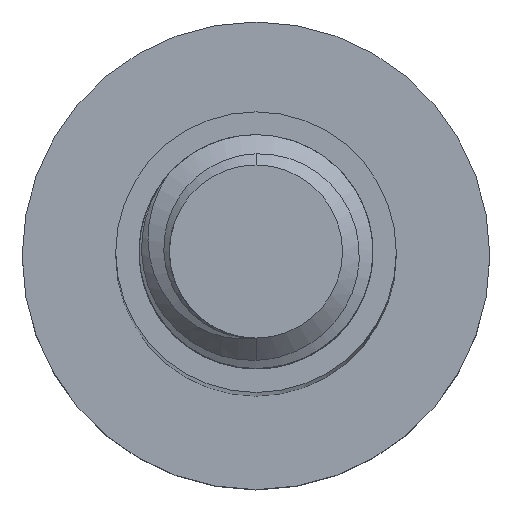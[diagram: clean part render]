
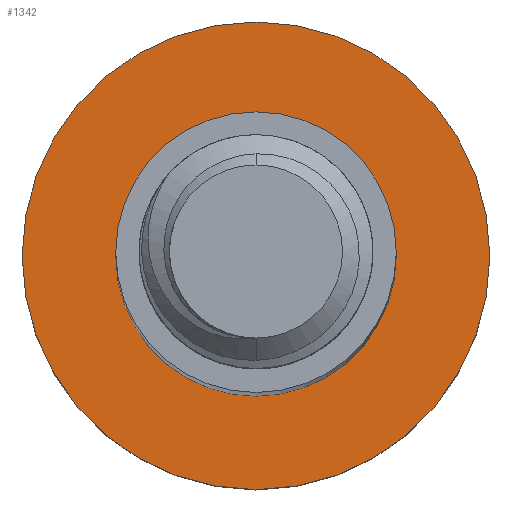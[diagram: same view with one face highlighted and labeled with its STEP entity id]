
A CAD part, top view. The second image highlights one B-rep face of the part: STEP entity #1342.
In plain terms, the highlighted planar face has unit normal (0, 0, 1).
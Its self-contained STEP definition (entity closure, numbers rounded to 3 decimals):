
#100 = EDGE_CURVE ( 'NONE', #2112, #1610, #1466, .T. ) ;
#149 = CIRCLE ( 'NONE', #2447, 6. ) ;
#186 = PLANE ( 'NONE',  #3325 ) ;
#206 = DIRECTION ( 'NONE',  ( -1., 0., 0. ) ) ;
#213 = AXIS2_PLACEMENT_3D ( 'NONE', #3321, #1949, #1069 ) ;
#516 = FACE_BOUND ( 'NONE', #2993, .T. ) ;
#596 = CARTESIAN_POINT ( 'NONE',  ( 10., 0., -90. ) ) ;
#604 = CARTESIAN_POINT ( 'NONE',  ( 6., 0., -90. ) ) ;
#688 = DIRECTION ( 'NONE',  ( 0., 0., -1. ) ) ;
#740 = AXIS2_PLACEMENT_3D ( 'NONE', #1543, #2651, #2082 ) ;
#761 = EDGE_CURVE ( 'NONE', #3033, #2895, #149, .T. ) ;
#817 = CARTESIAN_POINT ( 'NONE',  ( -6., 0., -90. ) ) ;
#822 = EDGE_CURVE ( 'NONE', #1610, #2112, #1820, .T. ) ;
#1061 = EDGE_LOOP ( 'NONE', ( #1991, #1287 ) ) ;
#1069 = DIRECTION ( 'NONE',  ( -1., 0., 0. ) ) ;
#1140 = DIRECTION ( 'NONE',  ( -1., 0., 0. ) ) ;
#1221 = DIRECTION ( 'NONE',  ( 0., 0., -1. ) ) ;
#1287 = ORIENTED_EDGE ( 'NONE', *, *, #822, .F. ) ;
#1334 = DIRECTION ( 'NONE',  ( 0., 0., -1. ) ) ;
#1342 = ADVANCED_FACE ( 'NONE', ( #516, #1548 ), #186, .F. ) ;
#1411 = AXIS2_PLACEMENT_3D ( 'NONE', #2147, #1334, #2699 ) ;
#1466 = CIRCLE ( 'NONE', #1411, 10. ) ;
#1543 = CARTESIAN_POINT ( 'NONE',  ( 0., 0., -90. ) ) ;
#1548 = FACE_OUTER_BOUND ( 'NONE', #1061, .T. ) ;
#1610 = VERTEX_POINT ( 'NONE', #2404 ) ;
#1648 = ORIENTED_EDGE ( 'NONE', *, *, #761, .T. ) ;
#1820 = CIRCLE ( 'NONE', #213, 10. ) ;
#1821 = CIRCLE ( 'NONE', #740, 6. ) ;
#1859 = CARTESIAN_POINT ( 'NONE',  ( 0., 0., -90. ) ) ;
#1949 = DIRECTION ( 'NONE',  ( 0., 0., -1. ) ) ;
#1991 = ORIENTED_EDGE ( 'NONE', *, *, #100, .F. ) ;
#2082 = DIRECTION ( 'NONE',  ( -1., 0., 0. ) ) ;
#2112 = VERTEX_POINT ( 'NONE', #596 ) ;
#2147 = CARTESIAN_POINT ( 'NONE',  ( 0., 0., -90. ) ) ;
#2404 = CARTESIAN_POINT ( 'NONE',  ( -10., 0., -90. ) ) ;
#2447 = AXIS2_PLACEMENT_3D ( 'NONE', #3148, #688, #1140 ) ;
#2651 = DIRECTION ( 'NONE',  ( 0., 0., -1. ) ) ;
#2699 = DIRECTION ( 'NONE',  ( -1., 0., 0. ) ) ;
#2721 = EDGE_CURVE ( 'NONE', #2895, #3033, #1821, .T. ) ;
#2858 = ORIENTED_EDGE ( 'NONE', *, *, #2721, .T. ) ;
#2895 = VERTEX_POINT ( 'NONE', #817 ) ;
#2993 = EDGE_LOOP ( 'NONE', ( #2858, #1648 ) ) ;
#3033 = VERTEX_POINT ( 'NONE', #604 ) ;
#3148 = CARTESIAN_POINT ( 'NONE',  ( 0., 0., -90. ) ) ;
#3321 = CARTESIAN_POINT ( 'NONE',  ( 0., 0., -90. ) ) ;
#3325 = AXIS2_PLACEMENT_3D ( 'NONE', #1859, #1221, #206 ) ;
